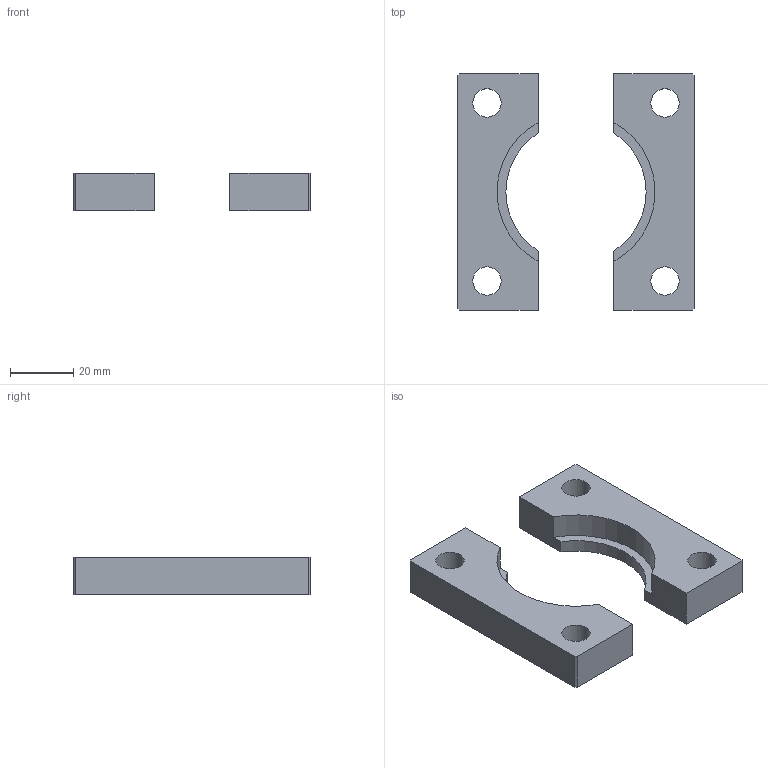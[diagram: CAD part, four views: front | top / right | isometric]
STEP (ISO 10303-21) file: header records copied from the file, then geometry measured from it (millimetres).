
FILE_DESCRIPTION(/* description */ (''),/* implementation_level */ '2;1');
FILE_NAME(/* name */ 'C:\Users\Jefferson\Desktop\Biblioteca Pro Nitro 2024\Flanges\PNB-55-XXX\PNB-55-050.stp',/* time_stamp */ '2024-01-26T15:25:49-03:00',/* author */ ('Jefferson'),/* organization */ (''),/* preprocessor_version */ 'ST-DEVELOPER v18.1',/* originating_system */ 'Autodesk Inventor 2021',/* authorisation */ '');
FILE_SCHEMA (('AUTOMOTIVE_DESIGN { 1 0 10303 214 3 1 1 }'));
Length unit declared in the file: millimetre
Products named in the file (1): PNB-55-050
Bounding box: 75 x 75 x 12 mm (x, y, z)
Volume: 34093.6 mm3; surface area: 12453 mm2
Topology: 2 solids, 2 shells, 185 faces, 498 edges, 332 vertices
Faces by surface type: plane 92, bspline 85, cylinder 8
Full cylindrical faces by diameter (mm): 9 x4
Entity records: 6254 total; most frequent: CARTESIAN_POINT 2121, ORIENTED_EDGE 996, DIRECTION 546, EDGE_CURVE 498, VERTEX_POINT 332, LINE 312, VECTOR 312, EDGE_LOOP 208
